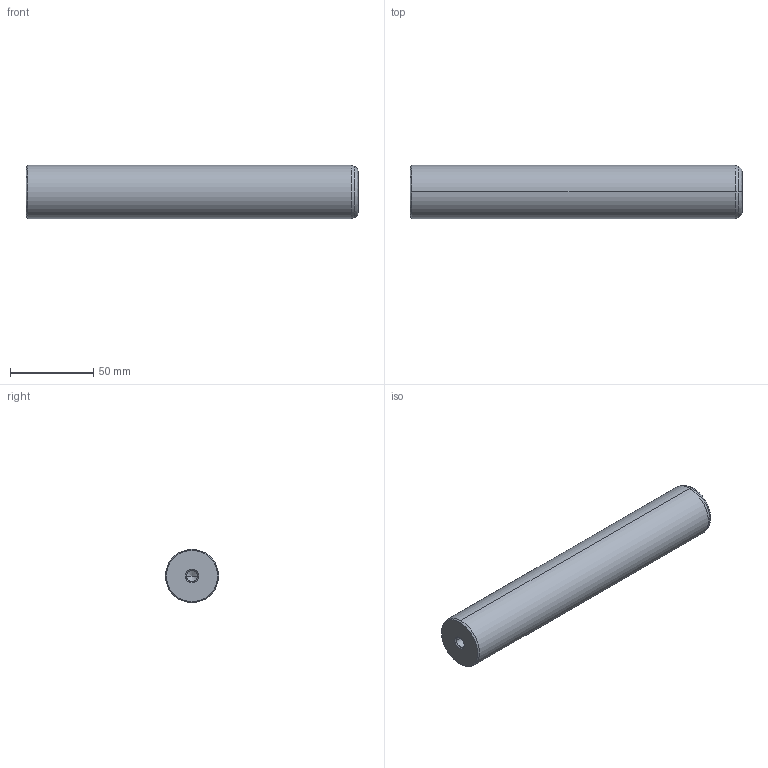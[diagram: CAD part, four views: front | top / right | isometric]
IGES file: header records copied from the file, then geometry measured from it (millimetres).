
Start section: START RECORD GO HERE.
Global section: file name: 720-32x200.igs; native system: DASSAULT SYSTEMES CATIA V5 R20 - www.3ds.com; preprocessor: CATIA Version 5 Release 20 ; author: Utente; organization: NB04-ASUS; date: 20210101.131756; units: millimetre
Bounding box: 200 x 32 x 32 mm (x, y, z)
Surface area: 22498.9 mm2 (no closed solid volume)
Topology: 0 solids, 0 shells, 22 faces, 108 edges, 104 vertices
Faces by surface type: revolution 20, plane 2
